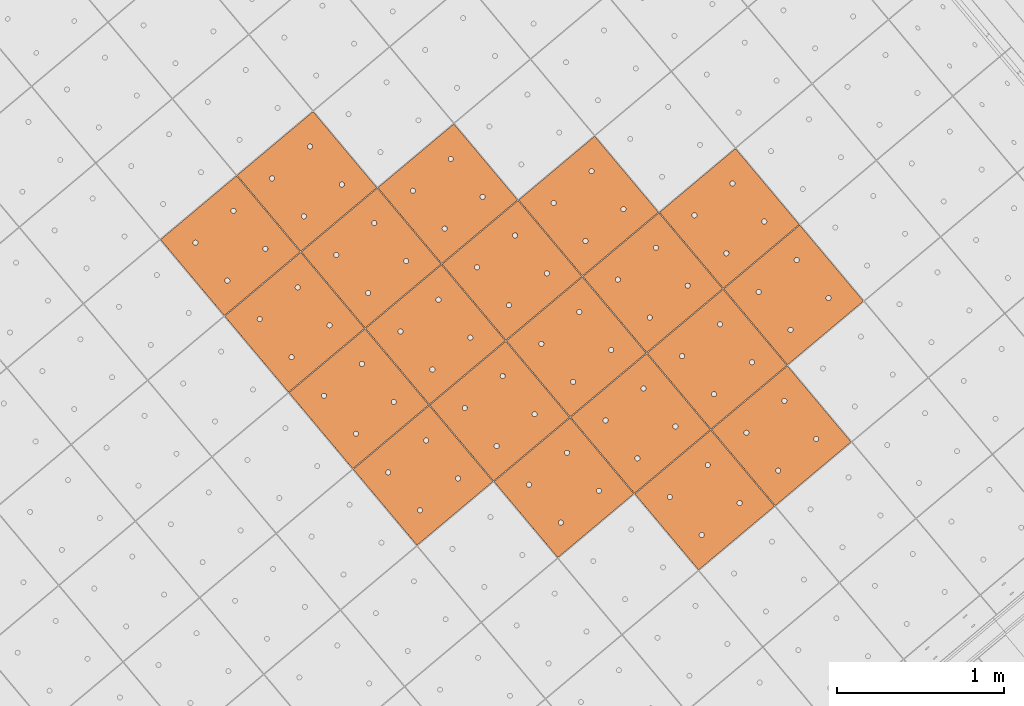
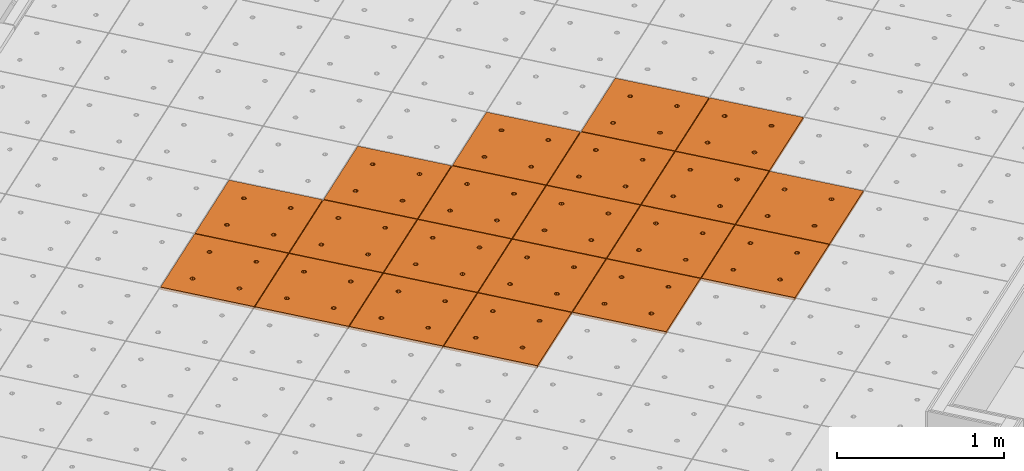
# One storey, part 170 of 338: 20 proxies, 1 element without a shape of its own.
"""IFC2X3 building model written with IfcOpenShell, lengths in millimetres."""

import ifcopenshell
import ifcopenshell.guid

model = None  # the IFC model being written
_history = None  # IfcOwnerHistory: only IFC2X3 demands one
_inside = {}  # id of a spatial element -> (the spatial element, [elements in it])
_under = {}  # id of a project, library or spatial element -> (it, [spatial elements below it])
_declared = {}  # id of a project -> (the project, [libraries it declares])
_typed = {}  # id of a type object -> (the type object, [elements of that type])
_made_of = {}  # id of a material, layer set ... -> (it, [elements and type objects made of it])


def new_model(schema):
    """Start an empty IFC model of exactly this schema.

    Asked for "IFC4X3", IfcOpenShell would pick the latest addendum, in which some entities
    have other attributes; the version numbers below select the first issue.
    IFC2X3 requires an IfcOwnerHistory on every rooted entity: one is made here for all.
    """
    global model, _history
    if schema == "IFC4X3":
        model = ifcopenshell.file(schema_version=(4, 3, 0, 0))
    else:
        model = ifcopenshell.file(schema=schema)
    _inside.clear()
    _under.clear()
    _declared.clear()
    _typed.clear()
    _made_of.clear()
    _history = None
    if model.schema == "IFC2X3":
        org = make("IfcOrganization", Name="unknown")
        user = make(
            "IfcPersonAndOrganization",
            ThePerson=make("IfcPerson", FamilyName="unknown"),
            TheOrganization=org,
        )
        app = make(
            "IfcApplication",
            ApplicationDeveloper=org,
            Version="unknown",
            ApplicationFullName="unknown",
            ApplicationIdentifier="unknown",
        )
        _history = make(
            "IfcOwnerHistory",
            OwningUser=user,
            OwningApplication=app,
            ChangeAction="ADDED",
            CreationDate=0,
        )
    return model


def make(cls, **values):
    """One entity of the class cls with the attributes given. An attribute that is None is left unset."""
    return model.create_entity(
        cls, **{name: value for name, value in values.items() if value is not None}
    )


def entity(cls, *values):
    """Any entity or typed value of the class cls, its attributes in the order of the schema. None: left unset."""
    e = model.create_entity(cls)
    for i, value in enumerate(values):
        if value is not None:
            e[i] = value
    return e


def rooted(cls, **values):
    """An entity with a GlobalId (a new one), such as an element, a storey or a relation."""
    return make(cls, GlobalId=ifcopenshell.guid.new(), OwnerHistory=_history, **values)


def si_unit(unit_type, name, prefix=None):
    """IfcSIUnit, for example si_unit("LENGTHUNIT", "METRE", prefix="MILLI")."""
    return make("IfcSIUnit", UnitType=unit_type, Prefix=prefix, Name=name)


def converted_unit(unit_type, name, factor, base, dimensions=None, offset=None):
    """IfcConversionBasedUnit, such as the inch: factor (a typed value) times the base unit."""
    return make(
        "IfcConversionBasedUnit"
        if offset is None
        else "IfcConversionBasedUnitWithOffset",
        ConversionOffset=offset,
        Dimensions=None
        if dimensions is None
        else entity("IfcDimensionalExponents", *dimensions),
        UnitType=unit_type,
        Name=name,
        ConversionFactor=make(
            "IfcMeasureWithUnit", ValueComponent=factor, UnitComponent=base
        ),
    )


def derived_unit(unit_type, elements):
    """IfcDerivedUnit: a product of units, each with its exponent."""
    return make(
        "IfcDerivedUnit",
        Elements=[
            make("IfcDerivedUnitElement", Unit=unit, Exponent=power)
            for unit, power in elements
        ],
        UnitType=unit_type,
    )


def money_unit(currency):
    """IfcMonetaryUnit."""
    return make("IfcMonetaryUnit", Currency=currency)


def assignment(units):
    """IfcUnitAssignment: the units of a project."""
    return None if units is None else make("IfcUnitAssignment", Units=units)


def point(xyz):
    """IfcCartesianPoint."""
    return None if xyz is None else make("IfcCartesianPoint", Coordinates=xyz)


def direction(xyz):
    """IfcDirection."""
    return None if xyz is None else make("IfcDirection", DirectionRatios=xyz)


def frame(location, z_axis=None, x_axis=None):
    """IfcAxis2Placement3D, a coordinate frame: its origin and axes. An axis left out is left unset."""
    return make(
        "IfcAxis2Placement3D",
        Location=point(location),
        Axis=direction(z_axis),
        RefDirection=direction(x_axis),
    )


def origin_with_axes():
    """The frame at (0, 0, 0) with the z axis (0, 0, 1) and the x axis (1, 0, 0) written out."""
    return frame((0.0, 0.0, 0.0), z_axis=(0.0, 0.0, 1.0), x_axis=(1.0, 0.0, 0.0))


def place(relative_to, where):
    """IfcLocalPlacement: puts the frame where relative to a parent placement (None: the world)."""
    return make(
        "IfcLocalPlacement", PlacementRelTo=relative_to, RelativePlacement=where
    )


def context(
    kind, dimensions, precision=None, world=None, true_north=None, identifier=None
):
    """IfcGeometricRepresentationContext, for example the 3D "Model" context."""
    return make(
        "IfcGeometricRepresentationContext",
        ContextIdentifier=identifier,
        ContextType=kind,
        CoordinateSpaceDimension=dimensions,
        Precision=precision,
        WorldCoordinateSystem=world,
        TrueNorth=true_north,
    )


def subcontext(parent, identifier, kind, view, scale=None):
    """IfcGeometricRepresentationSubContext, for example "Body" below "Model"."""
    return make(
        "IfcGeometricRepresentationSubContext",
        ContextIdentifier=identifier,
        ContextType=kind,
        ParentContext=parent,
        TargetScale=scale,
        TargetView=view,
    )


def project(units=None, contexts=None):
    """IfcProject with its units and contexts."""
    return rooted(
        "IfcProject",
        Name="project",
        RepresentationContexts=contexts,
        UnitsInContext=assignment(units),
    )


def spatial(cls, under=None, at=None, **own):
    """A site, building, storey or space (cls), placed at a placement, below another one or the project."""
    s = rooted(cls, ObjectPlacement=at, **own)
    if under is not None:
        _under.setdefault(under.id(), (under, []))[1].append(s)
    return s


def faces_of(points, faces, orient=None, outer=None):
    """IfcFace entities. A face is a list of loops; a loop is a list of indices into points, from 0.

    orient and outer hold one flag for each loop. By default every Orientation is true, the
    first loop of a face is its IfcFaceOuterBound and the others are IfcFaceBound.
    """
    made = []
    for i, loops in enumerate(faces):
        bounds = []
        for j, loop in enumerate(loops):
            is_outer = j == 0 if outer is None else outer[i][j]
            bounds.append(
                make(
                    "IfcFaceOuterBound" if is_outer else "IfcFaceBound",
                    Bound=make("IfcPolyLoop", Polygon=[points[k] for k in loop]),
                    Orientation=True if orient is None else orient[i][j],
                )
            )
        made.append(make("IfcFace", Bounds=bounds))
    return made


def faceted_brep(points, faces, orient=None, outer=None, voids=None):
    """IfcFacetedBrep: a solid bounded by flat faces; with voids (closed shells), ...WithVoids."""
    shared = [point(p) for p in points]
    hull = make("IfcClosedShell", CfsFaces=faces_of(shared, faces, orient, outer))
    if voids is None:
        return make("IfcFacetedBrep", Outer=hull)
    return make(
        "IfcFacetedBrepWithVoids",
        Outer=hull,
        Voids=[
            make(cls, CfsFaces=faces_of(shared, fs, o, b)) for cls, fs, o, b in voids
        ],
    )


def shape(context_of_items, identifier, shape_type, items):
    """IfcShapeRepresentation: the items that make up one representation, for example the "Body"."""
    return make(
        "IfcShapeRepresentation",
        ContextOfItems=context_of_items,
        RepresentationIdentifier=identifier,
        RepresentationType=shape_type,
        Items=items,
    )


def source(mapping_origin, context_of_items, identifier, shape_type, items):
    """IfcRepresentationMap: a shape defined once, which mapped items show again and again."""
    return make(
        "IfcRepresentationMap",
        MappingOrigin=mapping_origin,
        MappedRepresentation=shape(context_of_items, identifier, shape_type, items),
    )


def transform(
    local_origin,
    x_axis=None,
    y_axis=None,
    z_axis=None,
    scale=None,
    scale2=None,
    scale3=None,
    uniform=True,
):
    """IfcCartesianTransformationOperator3D, or its non-uniform kind. x_axis, y_axis, z_axis: its Axis1, 2, 3."""
    if uniform:
        return make(
            "IfcCartesianTransformationOperator3D",
            Axis1=direction(x_axis),
            Axis2=direction(y_axis),
            LocalOrigin=point(local_origin),
            Scale=scale,
            Axis3=direction(z_axis),
        )
    return make(
        "IfcCartesianTransformationOperator3DnonUniform",
        Axis1=direction(x_axis),
        Axis2=direction(y_axis),
        LocalOrigin=point(local_origin),
        Scale=scale,
        Axis3=direction(z_axis),
        Scale2=scale2,
        Scale3=scale3,
    )


def mapped(mapping_source, mapping_target):
    """IfcMappedItem: shows the shape of a source again, moved by a transform."""
    return make(
        "IfcMappedItem", MappingSource=mapping_source, MappingTarget=mapping_target
    )


def material(Name=None, Category=None):
    """IfcMaterial."""
    return make("IfcMaterial", Name=Name, Category=Category)


def made_of(thing, what):
    """Note that an element or type object is made of a material, layer set ...; save() writes the relation."""
    if what is not None:
        _made_of.setdefault(what.id(), (what, []))[1].append(thing)
    return thing


def type_object(cls, material=None, **own):
    """A type object (cls), such as IfcWallType, which elements share."""
    return made_of(rooted(cls, **own), material)


def type_shapes(of_type, sources):
    """Give a type object the sources (RepresentationMaps) that its elements show as mapped items."""
    of_type.RepresentationMaps = sources


def element(
    cls,
    number,
    at=None,
    inside=None,
    cuts=None,
    type_object=None,
    material=None,
    context=None,
    identifier="Body",
    shape_type=None,
    held_by="IfcProductDefinitionShape",
    body=None,
    shapes=None,
    **own,
):
    """One element of the class cls, such as IfcWall. Its Tag is "e" and its number.

    at: its placement. inside: the storey or other place that contains it. cuts: it is an
    opening in that element (IfcRelVoidsElement). A single representation is given by context,
    identifier, shape_type and body (its items); several are given by shapes. held_by: the class
    of the entity that holds the representations. save() writes the other relations.
    """
    e = rooted(cls, Tag="e%d" % number, ObjectPlacement=at, **own)
    if body is not None:
        shapes = [shape(context, identifier, shape_type, body)]
    if shapes is not None:
        e.Representation = make(held_by, Representations=shapes)
    if inside is not None:
        _inside.setdefault(inside.id(), (inside, []))[1].append(e)
    if cuts is not None:
        rooted(
            "IfcRelVoidsElement", RelatingBuildingElement=cuts, RelatedOpeningElement=e
        )
    if type_object is not None:
        _typed.setdefault(type_object.id(), (type_object, []))[1].append(e)
    return made_of(e, material)


def aggregate(whole, parts):
    """IfcRelAggregates: a whole, such as a stair, and the parts it consists of."""
    return rooted("IfcRelAggregates", RelatingObject=whole, RelatedObjects=parts)


def save(model, path):
    """Write the relations noted so far, then the file.

    IfcRelAggregates (storeys below a building ...), IfcRelContainedInSpatialStructure (elements
    in a storey), IfcRelDefinesByType, IfcRelAssociatesMaterial and IfcRelDeclares: one each for
    every whole, place, type object, material and project.
    """
    for whole, parts in _under.values():
        aggregate(whole, parts)
    for where, things in _inside.values():
        rooted(
            "IfcRelContainedInSpatialStructure",
            RelatedElements=things,
            RelatingStructure=where,
        )
    for kind, things in _typed.values():
        rooted("IfcRelDefinesByType", RelatedObjects=things, RelatingType=kind)
    for what, things in _made_of.values():
        rooted("IfcRelAssociatesMaterial", RelatedObjects=things, RelatingMaterial=what)
    for by, libraries in _declared.values():
        rooted("IfcRelDeclares", RelatingContext=by, RelatedDefinitions=libraries)
    model.write(path)


model = new_model("IFC2X3")

# Units and contexts
model_context = context("Model", 3, precision=0.01, world=origin_with_axes(), true_north=direction((0.0, 1.0)))
plan_context = context("Plan", 3, precision=0.01, world=origin_with_axes(), true_north=direction((0.0, 1.0)))
body_context = subcontext(model_context, "Body", "Model", "MODEL_VIEW")
ifc_project = project(units=[si_unit("LENGTHUNIT", "METRE", prefix="MILLI"), si_unit("AREAUNIT", "SQUARE_METRE"), si_unit("VOLUMEUNIT", "CUBIC_METRE"), converted_unit("PLANEANGLEUNIT", "DEGREE", entity("IfcPlaneAngleMeasure", 0.0174532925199), si_unit("PLANEANGLEUNIT", "RADIAN"), dimensions=[0, 0, 0, 0, 0, 0, 0]), money_unit("EUR"), converted_unit("TIMEUNIT", "Year", entity("IfcTimeMeasure", 31556926.0), si_unit("TIMEUNIT", "SECOND"), dimensions=[0, 0, 1, 0, 0, 0, 0]), si_unit("MASSUNIT", "GRAM", prefix="KILO"), si_unit("THERMODYNAMICTEMPERATUREUNIT", "DEGREE_CELSIUS"), si_unit("LUMINOUSINTENSITYUNIT", "LUMEN"), si_unit("ENERGYUNIT", "JOULE", prefix="MEGA"), derived_unit("THERMALCONDUCTANCEUNIT", [(si_unit("POWERUNIT", "WATT"), 1), (si_unit("LENGTHUNIT", "METRE"), -1), (si_unit("THERMODYNAMICTEMPERATUREUNIT", "KELVIN"), -1)]), derived_unit("SPECIFICHEATCAPACITYUNIT", [(si_unit("ENERGYUNIT", "JOULE"), 1), (si_unit("MASSUNIT", "GRAM", prefix="KILO"), -1), (si_unit("THERMODYNAMICTEMPERATUREUNIT", "KELVIN"), -1)]), derived_unit("MASSDENSITYUNIT", [(si_unit("MASSUNIT", "GRAM", prefix="KILO"), 1), (si_unit("VOLUMEUNIT", "CUBIC_METRE"), -1)])], contexts=[model_context, plan_context])

# Site, building, storey
site_placement = place(None, origin_with_axes())
site = spatial("IfcSite", under=ifc_project, at=site_placement, Name="Fortuinstraat Woensdrecht", CompositionType="ELEMENT")
building_placement = place(site_placement, origin_with_axes())
building = spatial("IfcBuilding", under=site, at=building_placement, Name="IKC Fortuna", CompositionType="ELEMENT")
storey_placement = place(building_placement, origin_with_axes())
storey = spatial("IfcBuildingStorey", under=building, at=storey_placement, Name="00 begane grond", CompositionType="ELEMENT", Elevation=0.0)

# Covering, proxies
covering_type = type_object("IfcCoveringType", Name="Curtain Wall Type", PredefinedType="CEILING")
covering_placement = place(storey_placement, frame((15863.124366, 4456.31398675, 4619.99995334), z_axis=(0.0, 0.0, 1.0), x_axis=(1.0, 0.0, 0.0)))
covering = element("IfcCovering", 1, at=covering_placement, inside=storey, type_object=covering_type, Name="45_Plafondafwerking_P01", PredefinedType="CEILING")
ifc_material = material(Name="Gipsplaat")
building_element_proxy_type = type_object("IfcBuildingElementProxyType", Name="Main Panel 600 x 600 x 20", PredefinedType="NOTDEFINED")
shared_shape = source(origin_with_axes(), body_context, "Body", "Brep", [
    faceted_brep([(2.50000262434, 2.50000269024, -10.0), (299.999999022, 2.50000269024, -10.0), (299.999999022, 2.50000269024, 10.0), (2.50000262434, 2.50000269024, 10.0), (2.50000262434, 300.000003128, -10.0), (2.50000262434, 597.500003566, -10.0), (299.999999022, 597.500003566, -10.0), (597.499995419, 597.500003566, -10.0), (597.499995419, 300.000003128, -10.0), (597.499995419, 2.50000269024, -10.0), (166.250000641, 450.062333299, -10.0), (165.794233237, 452.647118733, -10.0), (164.896546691, 455.113492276, -10.0), (163.584216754, 457.386514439, -10.0), (161.897117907, 459.397120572, -10.0), (159.886511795, 461.084219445, -10.0), (157.613489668, 462.396549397, -10.0), (155.147116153, 463.294235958, -10.0), (152.56233076, 463.750003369, -10.0), (149.937670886, 463.750003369, -10.0), (147.352885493, 463.294235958, -10.0), (144.886511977, 462.396549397, -10.0), (142.61348985, 461.084219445, -10.0), (140.602883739, 459.397120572, -10.0), (138.915784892, 457.386514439, -10.0), (137.603454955, 455.113492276, -10.0), (136.705768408, 452.647118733, -10.0), (136.250001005, 450.062333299, -10.0), (136.250001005, 448.750003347, -10.0), (136.250001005, 447.437673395, -10.0), (136.705768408, 444.852887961, -10.0), (137.603454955, 442.386514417, -10.0), (138.915784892, 440.113492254, -10.0), (140.602883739, 438.102886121, -10.0), (142.61348985, 436.415787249, -10.0), (144.886511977, 435.103457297, -10.0), (147.352885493, 434.205770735, -10.0), (149.937670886, 433.750003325, -10.0), (152.56233076, 433.750003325, -10.0), (155.147116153, 434.205770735, -10.0), (157.613489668, 435.103457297, -10.0), (159.886511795, 436.415787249, -10.0), (161.897117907, 438.102886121, -10.0), (163.584216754, 440.113492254, -10.0), (164.896546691, 442.386514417, -10.0), (165.794233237, 444.852887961, -10.0), (166.250000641, 447.437673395, -10.0), (463.749997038, 450.062333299, -10.0), (463.294229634, 452.647118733, -10.0), (462.396543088, 455.113492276, -10.0), (461.084213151, 457.386514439, -10.0), (459.397114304, 459.397120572, -10.0), (457.386508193, 461.084219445, -10.0), (455.113486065, 462.396549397, -10.0), (452.64711255, 463.294235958, -10.0), (450.062327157, 463.750003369, -10.0), (447.437667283, 463.750003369, -10.0), (444.85288189, 463.294235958, -10.0), (442.386508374, 462.396549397, -10.0), (440.113486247, 461.084219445, -10.0), (438.102880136, 459.397120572, -10.0), (436.415781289, 457.386514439, -10.0), (435.103451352, 455.113492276, -10.0), (434.205764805, 452.647118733, -10.0), (433.749997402, 450.062333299, -10.0), (433.749997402, 448.750003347, -10.0), (433.749997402, 447.437673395, -10.0), (434.205764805, 444.852887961, -10.0), (435.103451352, 442.386514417, -10.0), (436.415781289, 440.113492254, -10.0), (438.102880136, 438.102886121, -10.0), (440.113486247, 436.415787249, -10.0), (442.386508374, 435.103457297, -10.0), (444.85288189, 434.205770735, -10.0), (447.437667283, 433.750003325, -10.0), (450.062327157, 433.750003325, -10.0), (452.64711255, 434.205770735, -10.0), (455.113486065, 435.103457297, -10.0), (457.386508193, 436.415787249, -10.0), (459.397114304, 438.102886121, -10.0), (461.084213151, 440.113492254, -10.0), (462.396543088, 442.386514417, -10.0), (463.294229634, 444.852887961, -10.0), (463.749997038, 447.437673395, -10.0), (463.749997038, 152.562332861, -10.0), (463.294229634, 155.147118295, -10.0), (462.396543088, 157.613491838, -10.0), (461.084213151, 159.886514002, -10.0), (459.397114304, 161.897120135, -10.0), (457.386508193, 163.584219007, -10.0), (455.113486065, 164.896548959, -10.0), (452.64711255, 165.79423552, -10.0), (450.062327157, 166.250002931, -10.0), (447.437667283, 166.250002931, -10.0), (444.85288189, 165.79423552, -10.0), (442.386508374, 164.896548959, -10.0), (440.113486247, 163.584219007, -10.0), (438.102880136, 161.897120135, -10.0), (436.415781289, 159.886514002, -10.0), (435.103451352, 157.613491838, -10.0), (434.205764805, 155.147118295, -10.0), (433.749997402, 152.562332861, -10.0), (433.749997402, 151.250002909, -10.0), (433.749997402, 149.937672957, -10.0), (434.205764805, 147.352887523, -10.0), (435.103451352, 144.88651398, -10.0), (436.415781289, 142.613491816, -10.0), (438.102880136, 140.602885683, -10.0), (440.113486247, 138.915786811, -10.0), (442.386508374, 137.603456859, -10.0), (444.85288189, 136.705770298, -10.0), (447.437667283, 136.250002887, -10.0), (450.062327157, 136.250002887, -10.0), (452.64711255, 136.705770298, -10.0), (455.113486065, 137.603456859, -10.0), (457.386508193, 138.915786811, -10.0), (459.397114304, 140.602885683, -10.0), (461.084213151, 142.613491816, -10.0), (462.396543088, 144.88651398, -10.0), (463.294229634, 147.352887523, -10.0), (463.749997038, 149.937672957, -10.0), (166.250000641, 152.562332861, -10.0), (165.794233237, 155.147118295, -10.0), (164.896546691, 157.613491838, -10.0), (163.584216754, 159.886514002, -10.0), (161.897117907, 161.897120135, -10.0), (159.886511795, 163.584219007, -10.0), (157.613489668, 164.896548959, -10.0), (155.147116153, 165.79423552, -10.0), (152.56233076, 166.250002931, -10.0), (149.937670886, 166.250002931, -10.0), (147.352885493, 165.79423552, -10.0), (144.886511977, 164.896548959, -10.0), (142.61348985, 163.584219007, -10.0), (140.602883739, 161.897120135, -10.0), (138.915784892, 159.886514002, -10.0), (137.603454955, 157.613491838, -10.0), (136.705768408, 155.147118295, -10.0), (136.250001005, 152.562332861, -10.0), (136.250001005, 151.250002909, -10.0), (136.250001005, 149.937672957, -10.0), (136.705768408, 147.352887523, -10.0), (137.603454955, 144.88651398, -10.0), (138.915784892, 142.613491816, -10.0), (140.602883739, 140.602885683, -10.0), (142.61348985, 138.915786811, -10.0), (144.886511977, 137.603456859, -10.0), (147.352885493, 136.705770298, -10.0), (149.937670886, 136.250002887, -10.0), (152.56233076, 136.250002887, -10.0), (155.147116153, 136.705770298, -10.0), (157.613489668, 137.603456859, -10.0), (159.886511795, 138.915786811, -10.0), (161.897117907, 140.602885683, -10.0), (163.584216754, 142.613491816, -10.0), (164.896546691, 144.88651398, -10.0), (165.794233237, 147.352887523, -10.0), (166.250000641, 149.937672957, -10.0), (597.499995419, 2.50000269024, 10.0), (597.499995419, 300.000003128, 10.0), (597.499995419, 597.500003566, 10.0), (299.999999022, 597.500003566, 10.0), (2.50000262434, 597.500003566, 10.0), (2.50000262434, 300.000003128, 10.0), (166.250000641, 450.062333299, 10.0), (166.250000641, 447.437673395, 10.0), (165.794233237, 444.852887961, 10.0), (164.896546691, 442.386514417, 10.0), (163.584216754, 440.113492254, 10.0), (161.897117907, 438.102886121, 10.0), (159.886511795, 436.415787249, 10.0), (157.613489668, 435.103457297, 10.0), (155.147116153, 434.205770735, 10.0), (152.56233076, 433.750003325, 10.0), (149.937670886, 433.750003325, 10.0), (147.352885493, 434.205770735, 10.0), (144.886511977, 435.103457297, 10.0), (142.61348985, 436.415787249, 10.0), (140.602883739, 438.102886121, 10.0), (138.915784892, 440.113492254, 10.0), (137.603454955, 442.386514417, 10.0), (136.705768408, 444.852887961, 10.0), (136.250001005, 447.437673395, 10.0), (136.250001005, 448.750003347, 10.0), (136.250001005, 450.062333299, 10.0), (136.705768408, 452.647118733, 10.0), (137.603454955, 455.113492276, 10.0), (138.915784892, 457.386514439, 10.0), (140.602883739, 459.397120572, 10.0), (142.61348985, 461.084219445, 10.0), (144.886511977, 462.396549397, 10.0), (147.352885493, 463.294235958, 10.0), (149.937670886, 463.750003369, 10.0), (152.56233076, 463.750003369, 10.0), (155.147116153, 463.294235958, 10.0), (157.613489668, 462.396549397, 10.0), (159.886511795, 461.084219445, 10.0), (161.897117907, 459.397120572, 10.0), (163.584216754, 457.386514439, 10.0), (164.896546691, 455.113492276, 10.0), (165.794233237, 452.647118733, 10.0), (463.749997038, 450.062333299, 10.0), (463.749997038, 447.437673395, 10.0), (463.294229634, 444.852887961, 10.0), (462.396543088, 442.386514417, 10.0), (461.084213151, 440.113492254, 10.0), (459.397114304, 438.102886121, 10.0), (457.386508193, 436.415787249, 10.0), (455.113486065, 435.103457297, 10.0), (452.64711255, 434.205770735, 10.0), (450.062327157, 433.750003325, 10.0), (447.437667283, 433.750003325, 10.0), (444.85288189, 434.205770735, 10.0), (442.386508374, 435.103457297, 10.0), (440.113486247, 436.415787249, 10.0), (438.102880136, 438.102886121, 10.0), (436.415781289, 440.113492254, 10.0), (435.103451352, 442.386514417, 10.0), (434.205764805, 444.852887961, 10.0), (433.749997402, 447.437673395, 10.0), (433.749997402, 448.750003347, 10.0), (433.749997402, 450.062333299, 10.0), (434.205764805, 452.647118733, 10.0), (435.103451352, 455.113492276, 10.0), (436.415781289, 457.386514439, 10.0), (438.102880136, 459.397120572, 10.0), (440.113486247, 461.084219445, 10.0), (442.386508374, 462.396549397, 10.0), (444.85288189, 463.294235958, 10.0), (447.437667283, 463.750003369, 10.0), (450.062327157, 463.750003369, 10.0), (452.64711255, 463.294235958, 10.0), (455.113486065, 462.396549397, 10.0), (457.386508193, 461.084219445, 10.0), (459.397114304, 459.397120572, 10.0), (461.084213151, 457.386514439, 10.0), (462.396543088, 455.113492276, 10.0), (463.294229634, 452.647118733, 10.0), (463.749997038, 152.562332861, 10.0), (463.749997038, 149.937672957, 10.0), (463.294229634, 147.352887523, 10.0), (462.396543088, 144.88651398, 10.0), (461.084213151, 142.613491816, 10.0), (459.397114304, 140.602885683, 10.0), (457.386508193, 138.915786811, 10.0), (455.113486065, 137.603456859, 10.0), (452.64711255, 136.705770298, 10.0), (450.062327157, 136.250002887, 10.0), (447.437667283, 136.250002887, 10.0), (444.85288189, 136.705770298, 10.0), (442.386508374, 137.603456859, 10.0), (440.113486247, 138.915786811, 10.0), (438.102880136, 140.602885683, 10.0), (436.415781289, 142.613491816, 10.0), (435.103451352, 144.88651398, 10.0), (434.205764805, 147.352887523, 10.0), (433.749997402, 149.937672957, 10.0), (433.749997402, 151.250002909, 10.0), (433.749997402, 152.562332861, 10.0), (434.205764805, 155.147118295, 10.0), (435.103451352, 157.613491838, 10.0), (436.415781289, 159.886514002, 10.0), (438.102880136, 161.897120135, 10.0), (440.113486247, 163.584219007, 10.0), (442.386508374, 164.896548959, 10.0), (444.85288189, 165.79423552, 10.0), (447.437667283, 166.250002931, 10.0), (450.062327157, 166.250002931, 10.0), (452.64711255, 165.79423552, 10.0), (455.113486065, 164.896548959, 10.0), (457.386508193, 163.584219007, 10.0), (459.397114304, 161.897120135, 10.0), (461.084213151, 159.886514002, 10.0), (462.396543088, 157.613491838, 10.0), (463.294229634, 155.147118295, 10.0), (166.250000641, 152.562332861, 10.0), (166.250000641, 149.937672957, 10.0), (165.794233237, 147.352887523, 10.0), (164.896546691, 144.88651398, 10.0), (163.584216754, 142.613491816, 10.0), (161.897117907, 140.602885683, 10.0), (159.886511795, 138.915786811, 10.0), (157.613489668, 137.603456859, 10.0), (155.147116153, 136.705770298, 10.0), (152.56233076, 136.250002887, 10.0), (149.937670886, 136.250002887, 10.0), (147.352885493, 136.705770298, 10.0), (144.886511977, 137.603456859, 10.0), (142.61348985, 138.915786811, 10.0), (140.602883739, 140.602885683, 10.0), (138.915784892, 142.613491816, 10.0), (137.603454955, 144.88651398, 10.0), (136.705768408, 147.352887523, 10.0), (136.250001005, 149.937672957, 10.0), (136.250001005, 151.250002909, 10.0), (136.250001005, 152.562332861, 10.0), (136.705768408, 155.147118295, 10.0), (137.603454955, 157.613491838, 10.0), (138.915784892, 159.886514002, 10.0), (140.602883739, 161.897120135, 10.0), (142.61348985, 163.584219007, 10.0), (144.886511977, 164.896548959, 10.0), (147.352885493, 165.79423552, 10.0), (149.937670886, 166.250002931, 10.0), (152.56233076, 166.250002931, 10.0), (155.147116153, 165.79423552, 10.0), (157.613489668, 164.896548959, 10.0), (159.886511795, 163.584219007, 10.0), (161.897117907, 161.897120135, 10.0), (163.584216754, 159.886514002, 10.0), (164.896546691, 157.613491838, 10.0), (165.794233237, 155.147118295, 10.0)], [[[0, 1, 2, 3]], [[0, 4, 5, 6, 7, 8, 9, 1], [10, 11, 12, 13, 14, 15, 16, 17, 18, 19, 20, 21, 22, 23, 24, 25, 26, 27, 28, 29, 30, 31, 32, 33, 34, 35, 36, 37, 38, 39, 40, 41, 42, 43, 44, 45, 46], [47, 48, 49, 50, 51, 52, 53, 54, 55, 56, 57, 58, 59, 60, 61, 62, 63, 64, 65, 66, 67, 68, 69, 70, 71, 72, 73, 74, 75, 76, 77, 78, 79, 80, 81, 82, 83], [84, 85, 86, 87, 88, 89, 90, 91, 92, 93, 94, 95, 96, 97, 98, 99, 100, 101, 102, 103, 104, 105, 106, 107, 108, 109, 110, 111, 112, 113, 114, 115, 116, 117, 118, 119, 120], [121, 122, 123, 124, 125, 126, 127, 128, 129, 130, 131, 132, 133, 134, 135, 136, 137, 138, 139, 140, 141, 142, 143, 144, 145, 146, 147, 148, 149, 150, 151, 152, 153, 154, 155, 156, 157]], [[1, 9, 158, 2]], [[3, 2, 158, 159, 160, 161, 162, 163], [164, 165, 166, 167, 168, 169, 170, 171, 172, 173, 174, 175, 176, 177, 178, 179, 180, 181, 182, 183, 184, 185, 186, 187, 188, 189, 190, 191, 192, 193, 194, 195, 196, 197, 198, 199, 200], [201, 202, 203, 204, 205, 206, 207, 208, 209, 210, 211, 212, 213, 214, 215, 216, 217, 218, 219, 220, 221, 222, 223, 224, 225, 226, 227, 228, 229, 230, 231, 232, 233, 234, 235, 236, 237], [238, 239, 240, 241, 242, 243, 244, 245, 246, 247, 248, 249, 250, 251, 252, 253, 254, 255, 256, 257, 258, 259, 260, 261, 262, 263, 264, 265, 266, 267, 268, 269, 270, 271, 272, 273, 274], [275, 276, 277, 278, 279, 280, 281, 282, 283, 284, 285, 286, 287, 288, 289, 290, 291, 292, 293, 294, 295, 296, 297, 298, 299, 300, 301, 302, 303, 304, 305, 306, 307, 308, 309, 310, 311]], [[4, 0, 3, 163]], [[5, 4, 163, 162]], [[6, 5, 162, 161]], [[7, 6, 161, 160]], [[8, 7, 160, 159]], [[9, 8, 159, 158]], [[11, 10, 164, 200]], [[12, 11, 200, 199]], [[13, 12, 199, 198]], [[14, 13, 198, 197]], [[15, 14, 197, 196]], [[16, 15, 196, 195]], [[17, 16, 195, 194]], [[18, 17, 194, 193]], [[19, 18, 193, 192]], [[20, 19, 192, 191]], [[21, 20, 191, 190]], [[22, 21, 190, 189]], [[23, 22, 189, 188]], [[24, 23, 188, 187]], [[25, 24, 187, 186]], [[26, 25, 186, 185]], [[27, 26, 185, 184]], [[28, 27, 184, 183]], [[29, 28, 183, 182]], [[30, 29, 182, 181]], [[31, 30, 181, 180]], [[32, 31, 180, 179]], [[33, 32, 179, 178]], [[34, 33, 178, 177]], [[35, 34, 177, 176]], [[36, 35, 176, 175]], [[37, 36, 175, 174]], [[38, 37, 174, 173]], [[39, 38, 173, 172]], [[40, 39, 172, 171]], [[41, 40, 171, 170]], [[42, 41, 170, 169]], [[43, 42, 169, 168]], [[44, 43, 168, 167]], [[45, 44, 167, 166]], [[46, 45, 166, 165]], [[10, 46, 165, 164]], [[48, 47, 201, 237]], [[49, 48, 237, 236]], [[50, 49, 236, 235]], [[51, 50, 235, 234]], [[52, 51, 234, 233]], [[53, 52, 233, 232]], [[54, 53, 232, 231]], [[55, 54, 231, 230]], [[56, 55, 230, 229]], [[57, 56, 229, 228]], [[58, 57, 228, 227]], [[59, 58, 227, 226]], [[60, 59, 226, 225]], [[61, 60, 225, 224]], [[62, 61, 224, 223]], [[63, 62, 223, 222]], [[64, 63, 222, 221]], [[65, 64, 221, 220]], [[66, 65, 220, 219]], [[67, 66, 219, 218]], [[68, 67, 218, 217]], [[69, 68, 217, 216]], [[70, 69, 216, 215]], [[71, 70, 215, 214]], [[72, 71, 214, 213]], [[73, 72, 213, 212]], [[74, 73, 212, 211]], [[75, 74, 211, 210]], [[76, 75, 210, 209]], [[77, 76, 209, 208]], [[78, 77, 208, 207]], [[79, 78, 207, 206]], [[80, 79, 206, 205]], [[81, 80, 205, 204]], [[82, 81, 204, 203]], [[83, 82, 203, 202]], [[47, 83, 202, 201]], [[85, 84, 238, 274]], [[86, 85, 274, 273]], [[87, 86, 273, 272]], [[88, 87, 272, 271]], [[89, 88, 271, 270]], [[90, 89, 270, 269]], [[91, 90, 269, 268]], [[92, 91, 268, 267]], [[93, 92, 267, 266]], [[94, 93, 266, 265]], [[95, 94, 265, 264]], [[96, 95, 264, 263]], [[97, 96, 263, 262]], [[98, 97, 262, 261]], [[99, 98, 261, 260]], [[100, 99, 260, 259]], [[101, 100, 259, 258]], [[102, 101, 258, 257]], [[103, 102, 257, 256]], [[104, 103, 256, 255]], [[105, 104, 255, 254]], [[106, 105, 254, 253]], [[107, 106, 253, 252]], [[108, 107, 252, 251]], [[109, 108, 251, 250]], [[110, 109, 250, 249]], [[111, 110, 249, 248]], [[112, 111, 248, 247]], [[113, 112, 247, 246]], [[114, 113, 246, 245]], [[115, 114, 245, 244]], [[116, 115, 244, 243]], [[117, 116, 243, 242]], [[118, 117, 242, 241]], [[119, 118, 241, 240]], [[120, 119, 240, 239]], [[84, 120, 239, 238]], [[122, 121, 275, 311]], [[123, 122, 311, 310]], [[124, 123, 310, 309]], [[125, 124, 309, 308]], [[126, 125, 308, 307]], [[127, 126, 307, 306]], [[128, 127, 306, 305]], [[129, 128, 305, 304]], [[130, 129, 304, 303]], [[131, 130, 303, 302]], [[132, 131, 302, 301]], [[133, 132, 301, 300]], [[134, 133, 300, 299]], [[135, 134, 299, 298]], [[136, 135, 298, 297]], [[137, 136, 297, 296]], [[138, 137, 296, 295]], [[139, 138, 295, 294]], [[140, 139, 294, 293]], [[141, 140, 293, 292]], [[142, 141, 292, 291]], [[143, 142, 291, 290]], [[144, 143, 290, 289]], [[145, 144, 289, 288]], [[146, 145, 288, 287]], [[147, 146, 287, 286]], [[148, 147, 286, 285]], [[149, 148, 285, 284]], [[150, 149, 284, 283]], [[151, 150, 283, 282]], [[152, 151, 282, 281]], [[153, 152, 281, 280]], [[154, 153, 280, 279]], [[155, 154, 279, 278]], [[156, 155, 278, 277]], [[157, 156, 277, 276]], [[121, 157, 276, 275]]]),
])
type_shapes(building_element_proxy_type, [shared_shape])
proxy_1_placement = place(covering_placement, frame((-5759.77492069, 1082.15966532, 20.0027766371), z_axis=(0.0, 0.0, 1.0), x_axis=(0.642787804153, -0.766044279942, 0.0)))
proxy_1 = element("IfcBuildingElementProxy", 2, at=proxy_1_placement, type_object=building_element_proxy_type, material=ifc_material, Name="__600x976 Rockfon Krios", context=body_context, shape_type="MappedRepresentation", body=[
    mapped(shared_shape, transform((-300.0, 299.995617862, -1.62150043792), x_axis=(0.0, -0.999985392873, 0.00540500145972), y_axis=(1.0, 0.0, 0.0), z_axis=(0.0, 0.00540500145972, 0.999985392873))),
])
proxy_2_placement = place(covering_placement, frame((-6219.39477483, 696.4926164, 23.2457775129), z_axis=(0.0, 0.0, 1.0), x_axis=(0.642787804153, -0.766044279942, 0.0)))
proxy_2 = element("IfcBuildingElementProxy", 3, at=proxy_2_placement, type_object=building_element_proxy_type, material=ifc_material, Name="__600x977 Rockfon Krios", context=body_context, shape_type="MappedRepresentation", body=[
    mapped(shared_shape, transform((-300.0, 299.995617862, -1.62150043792), x_axis=(0.0, -0.999985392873, 0.00540500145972), y_axis=(1.0, 0.0, 0.0), z_axis=(0.0, 0.00540500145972, 0.999985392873))),
])
proxy_3_placement = place(covering_placement, frame((-4914.48238406, 1008.20014628, 16.7597757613), z_axis=(0.0, 0.0, 1.0), x_axis=(0.642787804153, -0.766044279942, 0.0)))
proxy_3 = element("IfcBuildingElementProxy", 4, at=proxy_3_placement, type_object=building_element_proxy_type, material=ifc_material, Name="__600x988 Rockfon Krios", context=body_context, shape_type="MappedRepresentation", body=[
    mapped(shared_shape, transform((-300.0, 299.995617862, -1.62150043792), x_axis=(0.0, -0.999985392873, 0.00540500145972), y_axis=(1.0, 0.0, 0.0), z_axis=(0.0, 0.00540500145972, 0.999985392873))),
])
proxy_4_placement = place(covering_placement, frame((-5374.1022382, 622.533097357, 20.0027766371), z_axis=(0.0, 0.0, 1.0), x_axis=(0.642787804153, -0.766044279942, 0.0)))
proxy_4 = element("IfcBuildingElementProxy", 5, at=proxy_4_placement, type_object=building_element_proxy_type, material=ifc_material, Name="__600x989 Rockfon Krios", context=body_context, shape_type="MappedRepresentation", body=[
    mapped(shared_shape, transform((-300.0, 299.995617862, -1.62150043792), x_axis=(0.0, -0.999985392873, 0.00540500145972), y_axis=(1.0, 0.0, 0.0), z_axis=(0.0, 0.00540500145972, 0.999985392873))),
])
proxy_5_placement = place(covering_placement, frame((-5833.72209234, 236.866048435, 23.2457775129), z_axis=(0.0, 0.0, 1.0), x_axis=(0.642787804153, -0.766044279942, 0.0)))
proxy_5 = element("IfcBuildingElementProxy", 6, at=proxy_5_placement, type_object=building_element_proxy_type, material=ifc_material, Name="__600x990 Rockfon Krios", context=body_context, shape_type="MappedRepresentation", body=[
    mapped(shared_shape, transform((-300.0, 299.995617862, -1.62150043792), x_axis=(0.0, -0.999985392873, 0.00540500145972), y_axis=(1.0, 0.0, 0.0), z_axis=(0.0, 0.00540500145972, 0.999985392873))),
])
proxy_6_placement = place(covering_placement, frame((-4069.18984743, 934.240627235, 13.5167748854), z_axis=(0.0, 0.0, 1.0), x_axis=(0.642787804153, -0.766044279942, 0.0)))
proxy_6 = element("IfcBuildingElementProxy", 7, at=proxy_6_placement, type_object=building_element_proxy_type, material=ifc_material, Name="__600x000 Rockfon Krios", context=body_context, shape_type="MappedRepresentation", body=[
    mapped(shared_shape, transform((-300.0, 299.995617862, -1.62150043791), x_axis=(0.0, -0.999985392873, 0.00540500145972), y_axis=(1.0, 0.0, 0.0), z_axis=(0.0, 0.00540500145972, 0.999985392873))),
])
proxy_7_placement = place(covering_placement, frame((-4528.80970157, 548.573578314, 16.7597757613), z_axis=(0.0, 0.0, 1.0), x_axis=(0.642787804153, -0.766044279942, 0.0)))
proxy_7 = element("IfcBuildingElementProxy", 8, at=proxy_7_placement, type_object=building_element_proxy_type, material=ifc_material, Name="__600x001 Rockfon Krios", context=body_context, shape_type="MappedRepresentation", body=[
    mapped(shared_shape, transform((-300.0, 299.995617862, -1.62150043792), x_axis=(0.0, -0.999985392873, 0.00540500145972), y_axis=(1.0, 0.0, 0.0), z_axis=(0.0, 0.00540500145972, 0.999985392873))),
])
proxy_8_placement = place(covering_placement, frame((-4988.42955571, 162.906529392, 20.0027766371), z_axis=(0.0, 0.0, 1.0), x_axis=(0.642787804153, -0.766044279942, 0.0)))
proxy_8 = element("IfcBuildingElementProxy", 9, at=proxy_8_placement, type_object=building_element_proxy_type, material=ifc_material, Name="__600x002 Rockfon Krios", context=body_context, shape_type="MappedRepresentation", body=[
    mapped(shared_shape, transform((-300.0, 299.995617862, -1.62150043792), x_axis=(0.0, -0.999985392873, 0.00540500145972), y_axis=(1.0, 0.0, 0.0), z_axis=(0.0, 0.00540500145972, 0.999985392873))),
])
proxy_9_placement = place(covering_placement, frame((-5448.04940985, -222.76051953, 23.2457775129), z_axis=(0.0, 0.0, 1.0), x_axis=(0.642787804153, -0.766044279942, 0.0)))
proxy_9 = element("IfcBuildingElementProxy", 10, at=proxy_9_placement, type_object=building_element_proxy_type, material=ifc_material, Name="__600x003 Rockfon Krios", context=body_context, shape_type="MappedRepresentation", body=[
    mapped(shared_shape, transform((-300.0, 299.995617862, -1.62150043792), x_axis=(0.0, -0.999985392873, 0.00540500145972), y_axis=(1.0, 0.0, 0.0), z_axis=(0.0, 0.00540500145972, 0.999985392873))),
])
proxy_10_placement = place(covering_placement, frame((-3223.89731079, 860.281108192, 10.2737740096), z_axis=(0.0, 0.0, 1.0), x_axis=(0.642787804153, -0.766044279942, 0.0)))
proxy_10 = element("IfcBuildingElementProxy", 11, at=proxy_10_placement, type_object=building_element_proxy_type, material=ifc_material, Name="__600x012 Rockfon Krios", context=body_context, shape_type="MappedRepresentation", body=[
    mapped(shared_shape, transform((-300.0, 299.995617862, -1.62150043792), x_axis=(0.0, -0.999985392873, 0.00540500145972), y_axis=(1.0, 0.0, 0.0), z_axis=(0.0, 0.00540500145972, 0.999985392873))),
])
proxy_11_placement = place(covering_placement, frame((-3683.51716493, 474.61405927, 13.5167748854), z_axis=(0.0, 0.0, 1.0), x_axis=(0.642787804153, -0.766044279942, 0.0)))
proxy_11 = element("IfcBuildingElementProxy", 12, at=proxy_11_placement, type_object=building_element_proxy_type, material=ifc_material, Name="__600x013 Rockfon Krios", context=body_context, shape_type="MappedRepresentation", body=[
    mapped(shared_shape, transform((-300.0, 299.995617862, -1.62150043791), x_axis=(0.0, -0.999985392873, 0.00540500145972), y_axis=(1.0, 0.0, 0.0), z_axis=(0.0, 0.00540500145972, 0.999985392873))),
])
proxy_12_placement = place(covering_placement, frame((-4143.13701908, 88.9470103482, 16.7597757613), z_axis=(0.0, 0.0, 1.0), x_axis=(0.642787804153, -0.766044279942, 0.0)))
proxy_12 = element("IfcBuildingElementProxy", 13, at=proxy_12_placement, type_object=building_element_proxy_type, material=ifc_material, Name="__600x014 Rockfon Krios", context=body_context, shape_type="MappedRepresentation", body=[
    mapped(shared_shape, transform((-300.0, 299.995617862, -1.62150043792), x_axis=(0.0, -0.999985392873, 0.00540500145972), y_axis=(1.0, 0.0, 0.0), z_axis=(0.0, 0.00540500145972, 0.999985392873))),
])
proxy_13_placement = place(covering_placement, frame((-4602.75687322, -296.720038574, 20.0027766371), z_axis=(0.0, 0.0, 1.0), x_axis=(0.642787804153, -0.766044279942, 0.0)))
proxy_13 = element("IfcBuildingElementProxy", 14, at=proxy_13_placement, type_object=building_element_proxy_type, material=ifc_material, Name="__600x015 Rockfon Krios", context=body_context, shape_type="MappedRepresentation", body=[
    mapped(shared_shape, transform((-300.0, 299.995617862, -1.62150043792), x_axis=(0.0, -0.999985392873, 0.00540500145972), y_axis=(1.0, 0.0, 0.0), z_axis=(0.0, 0.00540500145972, 0.999985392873))),
])
proxy_14_placement = place(covering_placement, frame((-5062.37672736, -682.387087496, 23.2457775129), z_axis=(0.0, 0.0, 1.0), x_axis=(0.642787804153, -0.766044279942, 0.0)))
proxy_14 = element("IfcBuildingElementProxy", 15, at=proxy_14_placement, type_object=building_element_proxy_type, material=ifc_material, Name="__600x016 Rockfon Krios", context=body_context, shape_type="MappedRepresentation", body=[
    mapped(shared_shape, transform((-300.0, 299.995617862, -1.62150043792), x_axis=(0.0, -0.999985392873, 0.00540500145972), y_axis=(1.0, 0.0, 0.0), z_axis=(0.0, 0.00540500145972, 0.999985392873))),
])
proxy_15_placement = place(covering_placement, frame((-2838.2246283, 400.654540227, 10.2737740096), z_axis=(0.0, 0.0, 1.0), x_axis=(0.642787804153, -0.766044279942, 0.0)))
proxy_15 = element("IfcBuildingElementProxy", 16, at=proxy_15_placement, type_object=building_element_proxy_type, material=ifc_material, Name="__600x025 Rockfon Krios", context=body_context, shape_type="MappedRepresentation", body=[
    mapped(shared_shape, transform((-300.0, 299.995617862, -1.62150043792), x_axis=(0.0, -0.999985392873, 0.00540500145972), y_axis=(1.0, 0.0, 0.0), z_axis=(0.0, 0.00540500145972, 0.999985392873))),
])
proxy_16_placement = place(covering_placement, frame((-3297.84448244, 14.9874913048, 13.5167748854), z_axis=(0.0, 0.0, 1.0), x_axis=(0.642787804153, -0.766044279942, 0.0)))
proxy_16 = element("IfcBuildingElementProxy", 17, at=proxy_16_placement, type_object=building_element_proxy_type, material=ifc_material, Name="__600x026 Rockfon Krios", context=body_context, shape_type="MappedRepresentation", body=[
    mapped(shared_shape, transform((-300.0, 299.995617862, -1.62150043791), x_axis=(0.0, -0.999985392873, 0.00540500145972), y_axis=(1.0, 0.0, 0.0), z_axis=(0.0, 0.00540500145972, 0.999985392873))),
])
proxy_17_placement = place(covering_placement, frame((-3757.46433658, -370.679557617, 16.7597757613), z_axis=(0.0, 0.0, 1.0), x_axis=(0.642787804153, -0.766044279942, 0.0)))
proxy_17 = element("IfcBuildingElementProxy", 18, at=proxy_17_placement, type_object=building_element_proxy_type, material=ifc_material, Name="__600x027 Rockfon Krios", context=body_context, shape_type="MappedRepresentation", body=[
    mapped(shared_shape, transform((-300.0, 299.995617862, -1.62150043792), x_axis=(0.0, -0.999985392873, 0.00540500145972), y_axis=(1.0, 0.0, 0.0), z_axis=(0.0, 0.00540500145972, 0.999985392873))),
])
proxy_18_placement = place(covering_placement, frame((-4217.08419073, -756.346606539, 20.0027766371), z_axis=(0.0, 0.0, 1.0), x_axis=(0.642787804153, -0.766044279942, 0.0)))
proxy_18 = element("IfcBuildingElementProxy", 19, at=proxy_18_placement, type_object=building_element_proxy_type, material=ifc_material, Name="__600x028 Rockfon Krios", context=body_context, shape_type="MappedRepresentation", body=[
    mapped(shared_shape, transform((-300.0, 299.995617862, -1.62150043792), x_axis=(0.0, -0.999985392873, 0.00540500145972), y_axis=(1.0, 0.0, 0.0), z_axis=(0.0, 0.00540500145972, 0.999985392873))),
])
proxy_19_placement = place(covering_placement, frame((-2912.17179995, -444.639076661, 13.5167748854), z_axis=(0.0, 0.0, 1.0), x_axis=(0.642787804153, -0.766044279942, 0.0)))
proxy_19 = element("IfcBuildingElementProxy", 20, at=proxy_19_placement, type_object=building_element_proxy_type, material=ifc_material, Name="__600x039 Rockfon Krios", context=body_context, shape_type="MappedRepresentation", body=[
    mapped(shared_shape, transform((-300.0, 299.995617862, -1.62150043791), x_axis=(0.0, -0.999985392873, 0.00540500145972), y_axis=(1.0, 0.0, 0.0), z_axis=(0.0, 0.00540500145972, 0.999985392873))),
])
proxy_20_placement = place(covering_placement, frame((-3371.79165409, -830.306125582, 16.7597757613), z_axis=(0.0, 0.0, 1.0), x_axis=(0.642787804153, -0.766044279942, 0.0)))
proxy_20 = element("IfcBuildingElementProxy", 21, at=proxy_20_placement, type_object=building_element_proxy_type, material=ifc_material, Name="__600x040 Rockfon Krios", context=body_context, shape_type="MappedRepresentation", body=[
    mapped(shared_shape, transform((-300.0, 299.995617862, -1.62150043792), x_axis=(0.0, -0.999985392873, 0.00540500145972), y_axis=(1.0, 0.0, 0.0), z_axis=(0.0, 0.00540500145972, 0.999985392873))),
])
aggregate(covering, [proxy_1, proxy_2, proxy_3, proxy_4, proxy_5, proxy_6, proxy_7, proxy_8, proxy_9, proxy_10, proxy_11, proxy_12, proxy_13, proxy_14, proxy_15, proxy_16, proxy_17, proxy_18, proxy_19, proxy_20])

save(model, "model.ifc")
